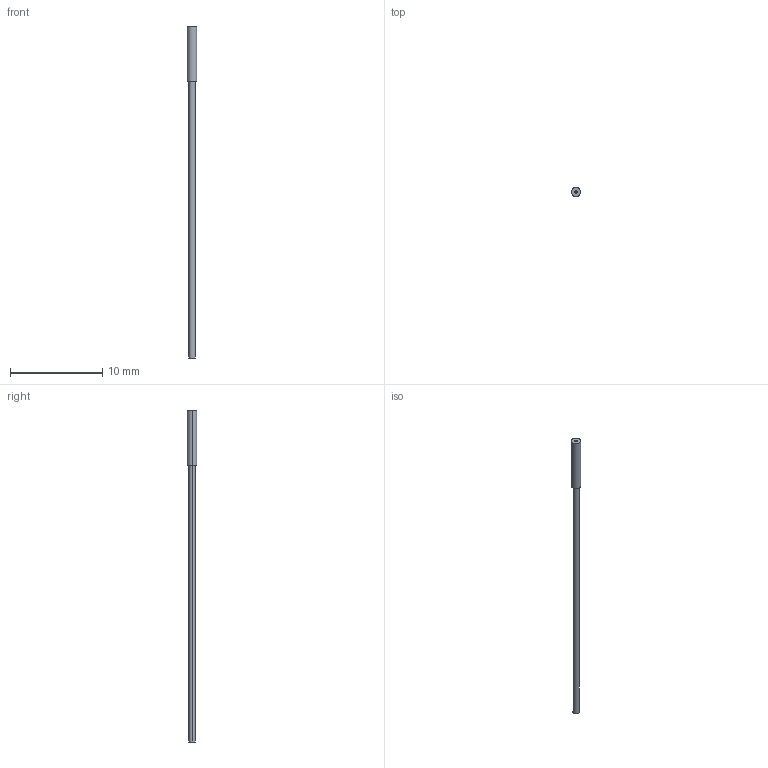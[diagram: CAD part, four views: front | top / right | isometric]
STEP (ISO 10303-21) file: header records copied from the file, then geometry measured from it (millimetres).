
FILE_DESCRIPTION (( 'STEP AP203' ), '1' );
FILE_NAME ('FQ-58_R.STEP', '2020-11-03T07:01:50', ( '' ), ( '' ), 'SwSTEP 2.0', 'SolidWorks 2020', '' );
FILE_SCHEMA (( 'CONFIG_CONTROL_DESIGN' ));
Length unit declared in the file: millimetre
Products named in the file (1): FQ-58_R
Bounding box: 1 x 1 x 36 mm (x, y, z)
Volume: 16.3 mm3; surface area: 86.6 mm2
Topology: 1 solids, 1 shells, 13 faces, 24 edges, 16 vertices
Faces by surface type: cylinder 8, plane 5
Entity records: 411 total; most frequent: DIRECTION 68, CARTESIAN_POINT 54, ORIENTED_EDGE 48, AXIS2_PLACEMENT_3D 30, EDGE_CURVE 24, CIRCLE 16, VERTEX_POINT 16, EDGE_LOOP 16
